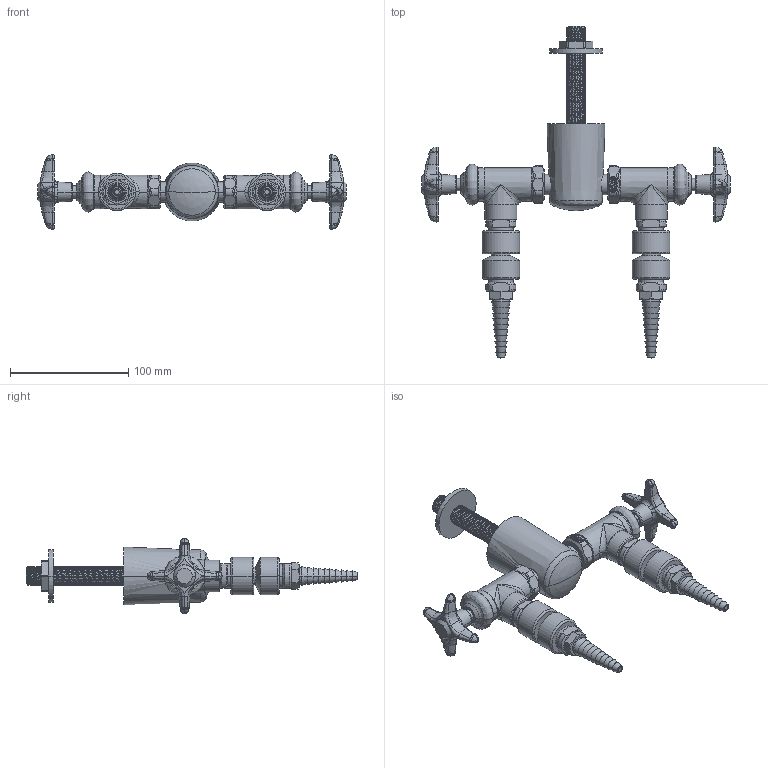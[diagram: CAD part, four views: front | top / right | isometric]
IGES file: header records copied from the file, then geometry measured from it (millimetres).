
Start section:  PTC IGES file: LWV2-B43-25.igs
Global section: file name: LWV2-B43-25.igs; native system: Creo Parametric by PTC Inc.; preprocessor: 2014500; author: usch_engrender; organization: Unknown; date: 20151116.114154; units: inch
Bounding box: 261.36 x 280.82 x 63.41 mm (x, y, z)
Volume: 321964.2 mm3; surface area: 90583.2 mm2
Topology: 1 solids, 7 shells, 1418 faces, 3297 edges, 1963 vertices
Faces by surface type: bspline 745, revolution 673
